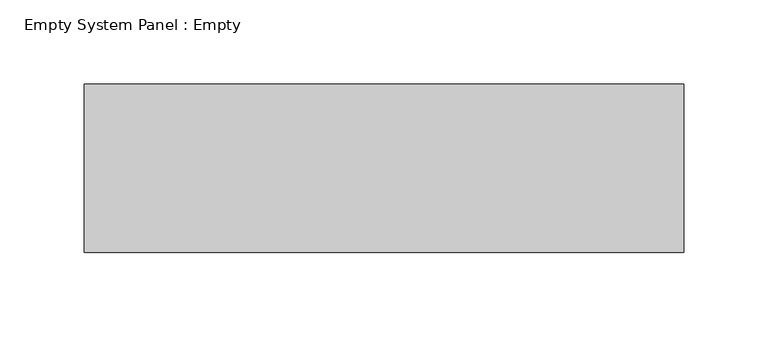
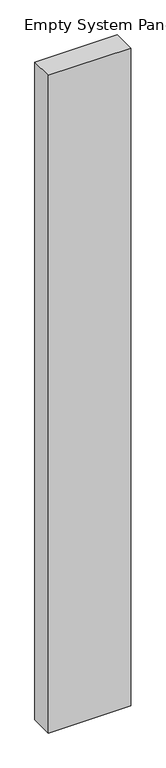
"""IFC4 building model written with IfcOpenShell, lengths in millimetres: plate geometry, Empty System Panel : Empty."""

from ifc_helpers import new_model, si_unit, origin, origin_with_axes, place, context, project, spatial, polyline, outline, extrude, source, transform, mapped, element, save


def empty_system_panel_empty_f23573c3(model_context):
    return source(origin(), model_context, "Body", "SweptSolid", [
        extrude(outline(polyline([(177.7261364, -50.0), (-177.7261364, -50.0), (-177.7261364, 50.0), (177.7261364, 50.0), (177.7261364, -50.0)])), origin_with_axes(), (0.0, 0.0, 1.0), 3000.0),
    ])


if __name__ == "__main__":
    model = new_model("IFC4")
    model_context = context("Model", 3, world=origin())
    ifc_project = project(units=[si_unit("LENGTHUNIT", "METRE", prefix="MILLI")], contexts=[model_context])
    site = spatial("IfcSite", under=ifc_project)
    building = spatial("IfcBuilding", under=site)
    placement = place(None, origin())
    empty_system_panel_empty_shape = empty_system_panel_empty_f23573c3(model_context)
    element("IfcPlate", 1, ObjectType="Empty System Panel : Empty", at=placement, inside=building, context=model_context, shape_type="MappedRepresentation", body=[
        mapped(empty_system_panel_empty_shape, transform((0.0, 0.0, 0.0), x_axis=(1.0, 0.0, 0.0), y_axis=(0.0, 1.0, 0.0), z_axis=(0.0, 0.0, 1.0))),
    ])
    save(model, "model.ifc")
